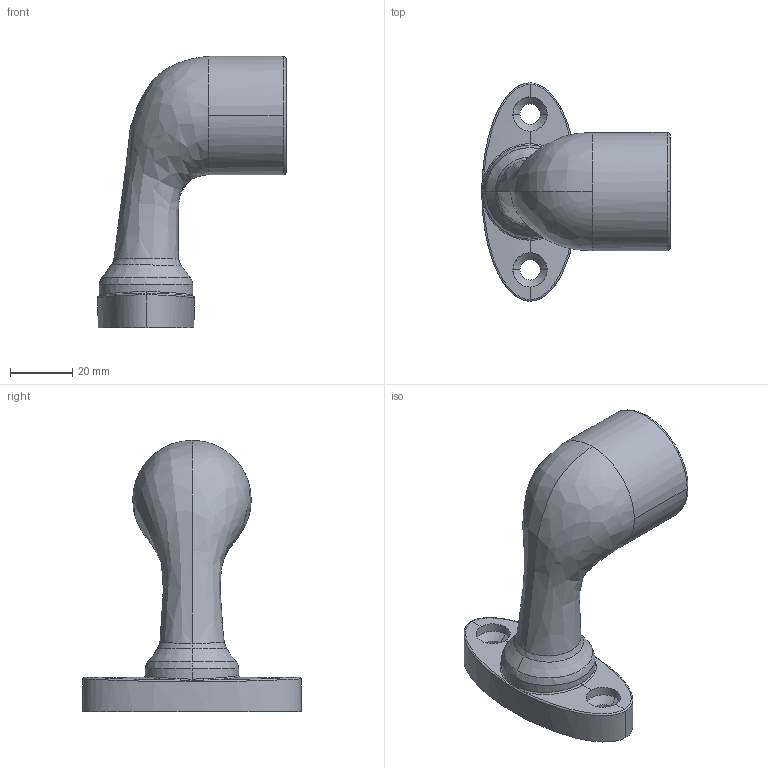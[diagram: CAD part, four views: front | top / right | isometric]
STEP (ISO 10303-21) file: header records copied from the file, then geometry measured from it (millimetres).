
FILE_DESCRIPTION (( 'STEP AP214' ), '1' );
FILE_NAME ('31000410048.STEP', '2024-09-02T09:32:11', ( '' ), ( '' ), 'SwSTEP 2.0', 'SolidWorks 2016', '' );
FILE_SCHEMA (( 'AUTOMOTIVE_DESIGN' ));
Length unit declared in the file: millimetre
Products named in the file (4): 31000410048; Mutter ISO4032 M8; 1694; DIN 913  (Regelgewinde) M8 x 12
Assembly tree (3 placements, depth 2):
  31000410048
    1694
    Mutter ISO4032 M8
    DIN 913  (Regelgewinde) M8 x 12
Bounding box: 60.5 x 70 x 87 mm (x, y, z)
Volume: 50521.7 mm3; surface area: 20023.2 mm2
Topology: 3 solids, 3 shells, 121 faces, 305 edges, 189 vertices
Faces by surface type: bspline 50, cone 26, cylinder 24, plane 21
Entity records: 13567 total; most frequent: CARTESIAN_POINT 9632, ORIENTED_EDGE 602, DIRECTION 357, EDGE_CURVE 301, VERTEX_POINT 189, B_SPLINE_CURVE_WITH_KNOTS 158, AXIS2_PLACEMENT_3D 141, UNCERTAINTY_MEASURE_WITH_UNIT 131
